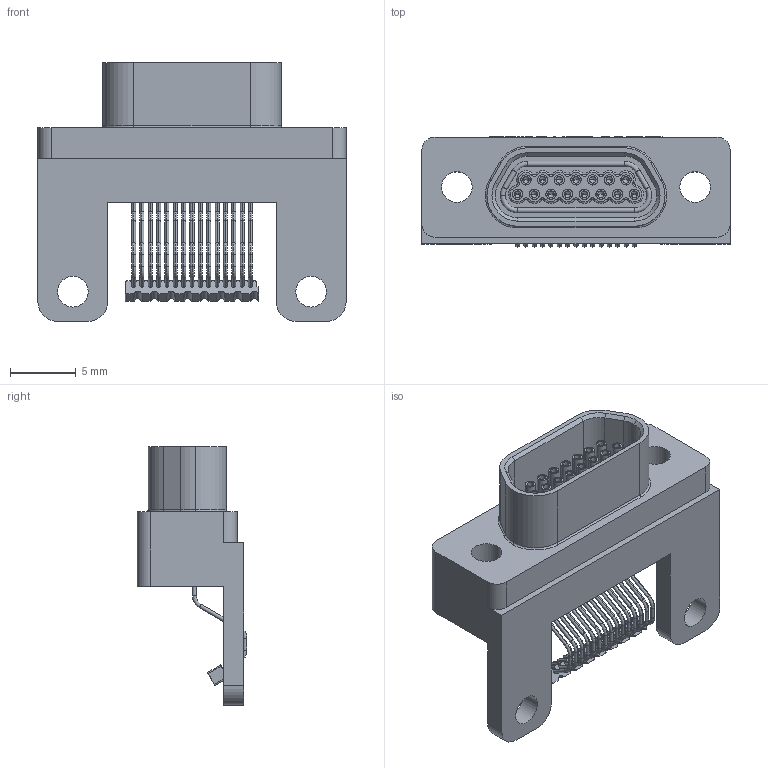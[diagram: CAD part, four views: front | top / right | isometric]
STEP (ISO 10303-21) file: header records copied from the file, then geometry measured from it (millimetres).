
FILE_DESCRIPTION (( 'STEP AP214' ), '1' );
FILE_NAME ('A99204-015 REV A.STEP', '2016-09-16T12:38:54', ( '' ), ( '' ), 'SwSTEP 2.0', 'SolidWorks 2016', '' );
FILE_SCHEMA (( 'AUTOMOTIVE_DESIGN' ));
Length unit declared in the file: inch
Products named in the file (1): A99204-015 REV A
Bounding box: 23.5 x 8.37 x 19.71 mm (x, y, z)
Volume: 1281.1 mm3; surface area: 2013.2 mm2
Topology: 1 solids, 4 shells, 981 faces, 2560 edges, 1584 vertices
Faces by surface type: cylinder 385, plane 344, torus 163, bspline 54, cone 35
Entity records: 32904 total; most frequent: CARTESIAN_POINT 8278, DIRECTION 5368, ORIENTED_EDGE 5048, EDGE_CURVE 2524, AXIS2_PLACEMENT_3D 2026, VERTEX_POINT 1584, VECTOR 1316, LINE 1316
